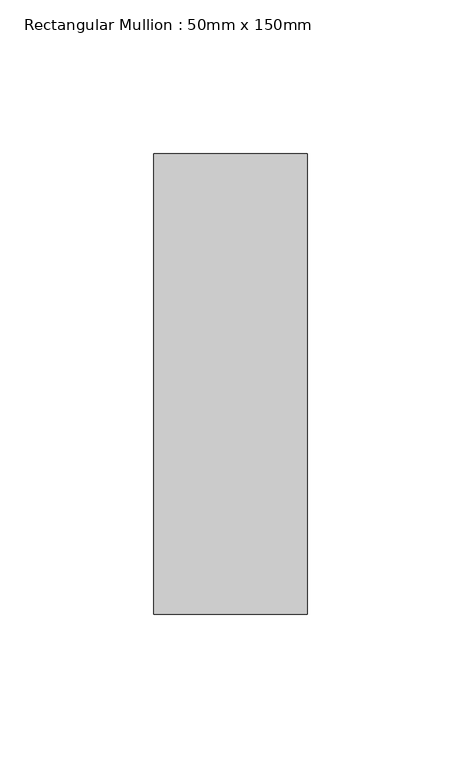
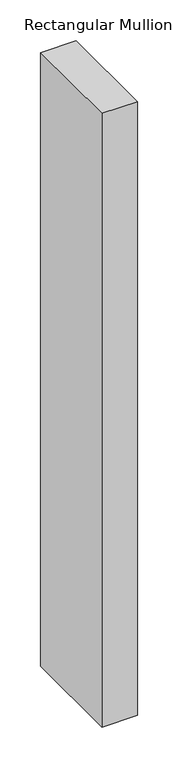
"""IFC4 building model written with IfcOpenShell, lengths in millimetres: member geometry, Rectangular Mullion : 50mm x 150mm."""

from ifc_helpers import new_model, si_unit, frame, origin, place, context, project, spatial, polyline, outline, extrude, source, transform, mapped, element, save


def rectangular_mullion_50mm_x_150mm_dacbbbe8(model_context):
    return source(origin(), model_context, "Body", "SweptSolid", [
        extrude(outline(polyline([(0.0, 75.0), (0.0, -75.0), (-50.0, -75.0), (-50.0, 75.0), (0.0, 75.0)])), frame((0.0, 0.0, -916.6666667), z_axis=(0.0, 0.0, 1.0), x_axis=(1.0, 0.0, 0.0)), (0.0, 0.0, 1.0), 916.6666667),
    ])


if __name__ == "__main__":
    model = new_model("IFC4")
    model_context = context("Model", 3, world=origin())
    ifc_project = project(units=[si_unit("LENGTHUNIT", "METRE", prefix="MILLI")], contexts=[model_context])
    site = spatial("IfcSite", under=ifc_project)
    building = spatial("IfcBuilding", under=site)
    placement = place(None, origin())
    rectangular_mullion_50mm_x_150mm_shape = rectangular_mullion_50mm_x_150mm_dacbbbe8(model_context)
    element("IfcMember", 1, ObjectType="Rectangular Mullion : 50mm x 150mm", at=placement, inside=building, context=model_context, shape_type="MappedRepresentation", body=[
        mapped(rectangular_mullion_50mm_x_150mm_shape, transform((0.0, 0.0, 0.0), x_axis=(1.0, 0.0, 0.0), y_axis=(0.0, 1.0, 0.0), z_axis=(0.0, 0.0, 1.0))),
    ])
    save(model, "model.ifc")
